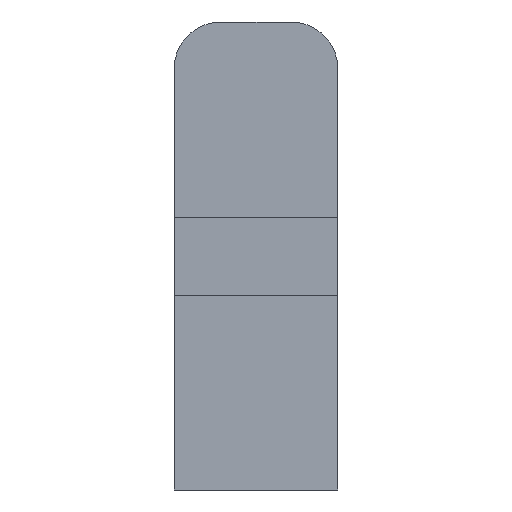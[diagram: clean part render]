
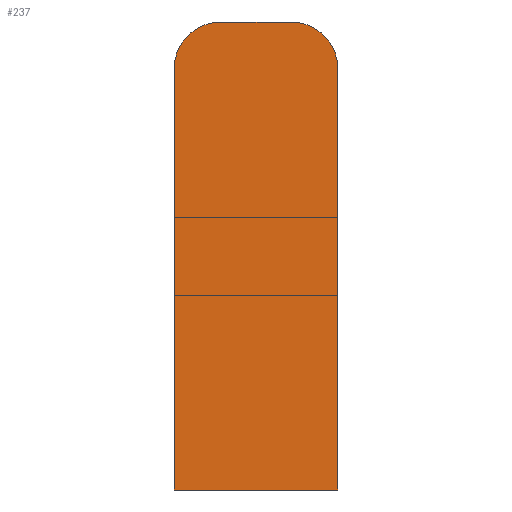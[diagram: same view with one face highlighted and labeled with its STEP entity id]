
A CAD part, front view. The second image highlights one B-rep face of the part: STEP entity #237.
In plain terms, the highlighted planar face has unit normal (0, -1, 0).
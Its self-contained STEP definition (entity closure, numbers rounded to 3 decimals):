
#7 = EDGE_CURVE ( 'NONE', #138, #76, #320, .T. ) ;
#9 = EDGE_CURVE ( 'NONE', #76, #72, #326, .T. ) ;
#23 = AXIS2_PLACEMENT_3D ( 'NONE', #92, #95, #96 ) ;
#24 = EDGE_CURVE ( 'NONE', #72, #79, #318, .T. ) ;
#28 = AXIS2_PLACEMENT_3D ( 'NONE', #185, #197, #198 ) ;
#32 = EDGE_CURVE ( 'NONE', #66, #141, #325, .T. ) ;
#34 = EDGE_CURVE ( 'NONE', #141, #138, #343, .T. ) ;
#47 = AXIS2_PLACEMENT_3D ( 'NONE', #112, #117, #118 ) ;
#50 = EDGE_CURVE ( 'NONE', #79, #66, #355, .T. ) ;
#61 = CARTESIAN_POINT ( 'NONE',  ( 5.25, 0., -16.5 ) ) ;
#66 = VERTEX_POINT ( 'NONE', #61 ) ;
#72 = VERTEX_POINT ( 'NONE', #147 ) ;
#76 = VERTEX_POINT ( 'NONE', #151 ) ;
#79 = VERTEX_POINT ( 'NONE', #154 ) ;
#90 = CARTESIAN_POINT ( 'NONE',  ( 2.25, 0., 13.5 ) ) ;
#91 = DIRECTION ( 'NONE',  ( -1., 0., 0. ) ) ;
#92 = CARTESIAN_POINT ( 'NONE',  ( -2.25, 0., 10.5 ) ) ;
#95 = DIRECTION ( 'NONE',  ( 0., -1., 0. ) ) ;
#96 = DIRECTION ( 'NONE',  ( -1., 0., 0. ) ) ;
#101 = CARTESIAN_POINT ( 'NONE',  ( -5.25, 0., -16.5 ) ) ;
#105 = CARTESIAN_POINT ( 'NONE',  ( 5.25, 0., -16.5 ) ) ;
#106 = DIRECTION ( 'NONE',  ( 0., 0., -1. ) ) ;
#112 = CARTESIAN_POINT ( 'NONE',  ( 2.25, 0., 10.5 ) ) ;
#113 = DIRECTION ( 'NONE',  ( 0., 0., 1. ) ) ;
#117 = DIRECTION ( 'NONE',  ( 0., -1., 0. ) ) ;
#118 = DIRECTION ( 'NONE',  ( -1., 0., 0. ) ) ;
#138 = VERTEX_POINT ( 'NONE', #156 ) ;
#139 = DIRECTION ( 'NONE',  ( 1., 0., 0. ) ) ;
#140 = CARTESIAN_POINT ( 'NONE',  ( 5.25, 0., -16.5 ) ) ;
#141 = VERTEX_POINT ( 'NONE', #157 ) ;
#147 = CARTESIAN_POINT ( 'NONE',  ( -5.25, 0., 10.5 ) ) ;
#151 = CARTESIAN_POINT ( 'NONE',  ( -2.25, 0., 13.5 ) ) ;
#154 = CARTESIAN_POINT ( 'NONE',  ( -5.25, 0., -16.5 ) ) ;
#156 = CARTESIAN_POINT ( 'NONE',  ( 2.25, 0., 13.5 ) ) ;
#157 = CARTESIAN_POINT ( 'NONE',  ( 5.25, 0., 10.5 ) ) ;
#182 = PLANE ( 'NONE',  #28 ) ;
#185 = CARTESIAN_POINT ( 'NONE',  ( 0., 0., -1.5 ) ) ;
#197 = DIRECTION ( 'NONE',  ( 0., 1., 0. ) ) ;
#198 = DIRECTION ( 'NONE',  ( -1., 0., 0. ) ) ;
#237 = ADVANCED_FACE ( 'NONE', ( #374 ), #182, .F. ) ;
#248 = EDGE_LOOP ( 'NONE', ( #285, #286, #287, #288, #289, #290 ) ) ;
#285 = ORIENTED_EDGE ( 'NONE', *, *, #32, .T. ) ;
#286 = ORIENTED_EDGE ( 'NONE', *, *, #34, .T. ) ;
#287 = ORIENTED_EDGE ( 'NONE', *, *, #7, .T. ) ;
#288 = ORIENTED_EDGE ( 'NONE', *, *, #9, .T. ) ;
#289 = ORIENTED_EDGE ( 'NONE', *, *, #24, .T. ) ;
#290 = ORIENTED_EDGE ( 'NONE', *, *, #50, .T. ) ;
#318 = LINE ( 'NONE', #101, #333 ) ;
#320 = LINE ( 'NONE', #90, #321 ) ;
#321 = VECTOR ( 'NONE', #91, 1000. ) ;
#325 = LINE ( 'NONE', #105, #338 ) ;
#326 = CIRCLE ( 'NONE', #23, 3. ) ;
#333 = VECTOR ( 'NONE', #106, 1000. ) ;
#338 = VECTOR ( 'NONE', #113, 1000. ) ;
#343 = CIRCLE ( 'NONE', #47, 3. ) ;
#355 = LINE ( 'NONE', #140, #356 ) ;
#356 = VECTOR ( 'NONE', #139, 1000. ) ;
#374 = FACE_OUTER_BOUND ( 'NONE', #248, .T. ) ;
